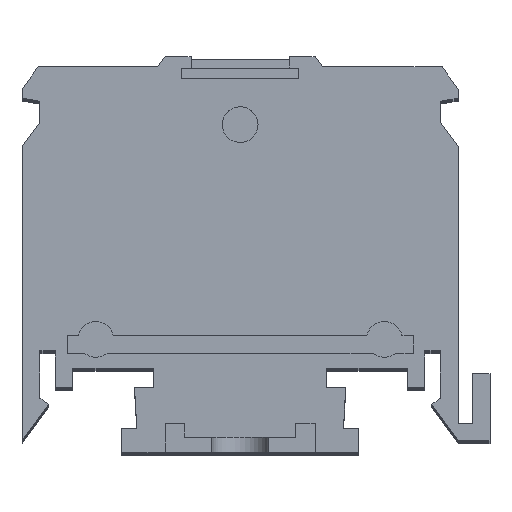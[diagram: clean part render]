
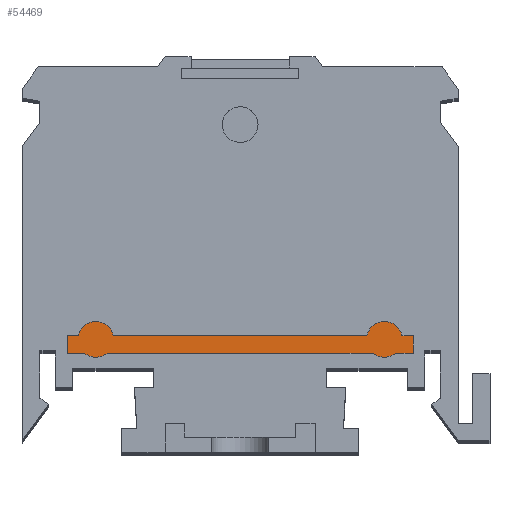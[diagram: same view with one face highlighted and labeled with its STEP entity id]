
A CAD part, top view. The second image highlights one B-rep face of the part: STEP entity #54469.
In plain terms, the highlighted planar face has unit normal (0, 0, 1).
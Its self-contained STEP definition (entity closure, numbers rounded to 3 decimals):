
#5920 = AXIS2_PLACEMENT_3D ( 'NONE', #16949, #16951, #16952 ) ;
#5921 = AXIS2_PLACEMENT_3D ( 'NONE', #16946, #16961, #16962 ) ;
#5986 = AXIS2_PLACEMENT_3D ( 'NONE', #21146, #21147, #21148 ) ;
#6002 = AXIS2_PLACEMENT_3D ( 'NONE', #21205, #21207, #21208 ) ;
#11381 = VERTEX_POINT ( 'NONE', #56686 ) ;
#13625 = VERTEX_POINT ( 'NONE', #58035 ) ;
#13635 = VERTEX_POINT ( 'NONE', #58045 ) ;
#13643 = VERTEX_POINT ( 'NONE', #58053 ) ;
#15758 = VECTOR ( 'NONE', #16954, 1000. ) ;
#15771 = LINE ( 'NONE', #16953, #15758 ) ;
#15779 = LINE ( 'NONE', #16947, #15780 ) ;
#15780 = VECTOR ( 'NONE', #16948, 1000. ) ;
#15782 = LINE ( 'NONE', #16963, #15783 ) ;
#15783 = VECTOR ( 'NONE', #16964, 1000. ) ;
#15784 = CIRCLE ( 'NONE', #5920, 1.55 ) ;
#15785 = LINE ( 'NONE', #16955, #15786 ) ;
#15786 = VECTOR ( 'NONE', #16956, 1000. ) ;
#15787 = LINE ( 'NONE', #16957, #15788 ) ;
#15788 = VECTOR ( 'NONE', #16958, 1000. ) ;
#15789 = LINE ( 'NONE', #16959, #15790 ) ;
#15790 = VECTOR ( 'NONE', #16960, 1000. ) ;
#15793 = CIRCLE ( 'NONE', #5921, 1.55 ) ;
#15794 = LINE ( 'NONE', #16965, #15795 ) ;
#15795 = VECTOR ( 'NONE', #16966, 1000. ) ;
#15796 = LINE ( 'NONE', #16967, #15797 ) ;
#15797 = VECTOR ( 'NONE', #16968, 1000. ) ;
#16946 = CARTESIAN_POINT ( 'NONE',  ( 12.5, 9.8, -1. ) ) ;
#16947 = CARTESIAN_POINT ( 'NONE',  ( -15., 8.6, -1. ) ) ;
#16948 = DIRECTION ( 'NONE',  ( 1., 0., 0. ) ) ;
#16949 = CARTESIAN_POINT ( 'NONE',  ( -12.5, 9.8, -1. ) ) ;
#16951 = DIRECTION ( 'NONE',  ( 0., 0., 1. ) ) ;
#16952 = DIRECTION ( 'NONE',  ( 1., 0., 0. ) ) ;
#16953 = CARTESIAN_POINT ( 'NONE',  ( -15., 10.1, -1. ) ) ;
#16954 = DIRECTION ( 'NONE',  ( -1., 0., 0. ) ) ;
#16955 = CARTESIAN_POINT ( 'NONE',  ( -15., 10.1, -1. ) ) ;
#16956 = DIRECTION ( 'NONE',  ( 0., -1., 0. ) ) ;
#16957 = CARTESIAN_POINT ( 'NONE',  ( -15., 8.6, -1. ) ) ;
#16958 = DIRECTION ( 'NONE',  ( 1., 0., 0. ) ) ;
#16959 = CARTESIAN_POINT ( 'NONE',  ( -15., 8.6, -1. ) ) ;
#16960 = DIRECTION ( 'NONE',  ( 1., 0., 0. ) ) ;
#16961 = DIRECTION ( 'NONE',  ( 0., 0., 1. ) ) ;
#16962 = DIRECTION ( 'NONE',  ( 1., 0., 0. ) ) ;
#16963 = CARTESIAN_POINT ( 'NONE',  ( -15., 10.1, -1. ) ) ;
#16964 = DIRECTION ( 'NONE',  ( -1., 0., 0. ) ) ;
#16965 = CARTESIAN_POINT ( 'NONE',  ( 15., 10.1, -1. ) ) ;
#16966 = DIRECTION ( 'NONE',  ( 0., 1., 0. ) ) ;
#16967 = CARTESIAN_POINT ( 'NONE',  ( -15., 10.1, -1. ) ) ;
#16968 = DIRECTION ( 'NONE',  ( -1., 0., 0. ) ) ;
#20198 = CIRCLE ( 'NONE', #5986, 1.55 ) ;
#20244 = CIRCLE ( 'NONE', #6002, 1.55 ) ;
#21146 = CARTESIAN_POINT ( 'NONE',  ( -12.5, 9.8, -1. ) ) ;
#21147 = DIRECTION ( 'NONE',  ( 0., 0., 1. ) ) ;
#21148 = DIRECTION ( 'NONE',  ( 1., 0., 0. ) ) ;
#21205 = CARTESIAN_POINT ( 'NONE',  ( 12.5, 9.8, -1. ) ) ;
#21207 = DIRECTION ( 'NONE',  ( 0., 0., 1. ) ) ;
#21208 = DIRECTION ( 'NONE',  ( 1., 0., 0. ) ) ;
#22699 = FACE_OUTER_BOUND ( 'NONE', #58897, .T. ) ;
#25299 = AXIS2_PLACEMENT_3D ( 'NONE', #28263, #28273, #28274 ) ;
#25912 = CARTESIAN_POINT ( 'NONE',  ( -15., 8.6, -1. ) ) ;
#25928 = CARTESIAN_POINT ( 'NONE',  ( -11.519, 8.6, -1. ) ) ;
#28263 = CARTESIAN_POINT ( 'NONE',  ( -12.5, 9.8, -1. ) ) ;
#28268 = PLANE ( 'NONE',  #25299 ) ;
#28273 = DIRECTION ( 'NONE',  ( 0., 0., 1. ) ) ;
#28274 = DIRECTION ( 'NONE',  ( 1., 0., 0. ) ) ;
#29391 = CARTESIAN_POINT ( 'NONE',  ( 13.481, 8.6, -1. ) ) ;
#29428 = CARTESIAN_POINT ( 'NONE',  ( 11.519, 8.6, -1. ) ) ;
#29458 = CARTESIAN_POINT ( 'NONE',  ( -14.021, 10.1, -1. ) ) ;
#29604 = CARTESIAN_POINT ( 'NONE',  ( -15., 10.1, -1. ) ) ;
#29643 = CARTESIAN_POINT ( 'NONE',  ( 15., 8.6, -1. ) ) ;
#29689 = CARTESIAN_POINT ( 'NONE',  ( -10.979, 10.1, -1. ) ) ;
#42365 = ORIENTED_EDGE ( 'NONE', *, *, #46327, .T. ) ;
#42366 = ORIENTED_EDGE ( 'NONE', *, *, #46328, .T. ) ;
#42367 = ORIENTED_EDGE ( 'NONE', *, *, #46329, .T. ) ;
#42368 = ORIENTED_EDGE ( 'NONE', *, *, #46330, .T. ) ;
#42369 = ORIENTED_EDGE ( 'NONE', *, *, #50726, .T. ) ;
#42370 = ORIENTED_EDGE ( 'NONE', *, *, #46331, .T. ) ;
#42371 = ORIENTED_EDGE ( 'NONE', *, *, #50753, .T. ) ;
#42372 = ORIENTED_EDGE ( 'NONE', *, *, #46326, .T. ) ;
#42373 = ORIENTED_EDGE ( 'NONE', *, *, #46334, .T. ) ;
#42374 = ORIENTED_EDGE ( 'NONE', *, *, #46333, .T. ) ;
#42375 = ORIENTED_EDGE ( 'NONE', *, *, #46332, .T. ) ;
#42376 = ORIENTED_EDGE ( 'NONE', *, *, #46335, .T. ) ;
#46326 = EDGE_CURVE ( 'NONE', #55307, #55559, #15779, .T. ) ;
#46327 = EDGE_CURVE ( 'NONE', #55605, #55374, #15784, .T. ) ;
#46328 = EDGE_CURVE ( 'NONE', #55374, #55520, #15771, .T. ) ;
#46329 = EDGE_CURVE ( 'NONE', #55520, #52764, #15785, .T. ) ;
#46330 = EDGE_CURVE ( 'NONE', #52764, #13643, #15787, .T. ) ;
#46331 = EDGE_CURVE ( 'NONE', #52780, #55344, #15789, .T. ) ;
#46332 = EDGE_CURVE ( 'NONE', #11381, #13625, #15793, .T. ) ;
#46333 = EDGE_CURVE ( 'NONE', #13635, #11381, #15782, .T. ) ;
#46334 = EDGE_CURVE ( 'NONE', #55559, #13635, #15794, .T. ) ;
#46335 = EDGE_CURVE ( 'NONE', #13625, #55605, #15796, .T. ) ;
#50726 = EDGE_CURVE ( 'NONE', #13643, #52780, #20198, .T. ) ;
#50753 = EDGE_CURVE ( 'NONE', #55344, #55307, #20244, .T. ) ;
#52764 = VERTEX_POINT ( 'NONE', #25912 ) ;
#52780 = VERTEX_POINT ( 'NONE', #25928 ) ;
#54469 = ADVANCED_FACE ( 'NONE', ( #22699 ), #28268, .T. ) ;
#55307 = VERTEX_POINT ( 'NONE', #29391 ) ;
#55344 = VERTEX_POINT ( 'NONE', #29428 ) ;
#55374 = VERTEX_POINT ( 'NONE', #29458 ) ;
#55520 = VERTEX_POINT ( 'NONE', #29604 ) ;
#55559 = VERTEX_POINT ( 'NONE', #29643 ) ;
#55605 = VERTEX_POINT ( 'NONE', #29689 ) ;
#56686 = CARTESIAN_POINT ( 'NONE',  ( 14.021, 10.1, -1. ) ) ;
#58035 = CARTESIAN_POINT ( 'NONE',  ( 10.979, 10.1, -1. ) ) ;
#58045 = CARTESIAN_POINT ( 'NONE',  ( 15., 10.1, -1. ) ) ;
#58053 = CARTESIAN_POINT ( 'NONE',  ( -13.481, 8.6, -1. ) ) ;
#58897 = EDGE_LOOP ( 'NONE', ( #42365, #42366, #42367, #42368, #42369, #42370, #42371, #42372, #42373, #42374, #42375, #42376 ) ) ;
